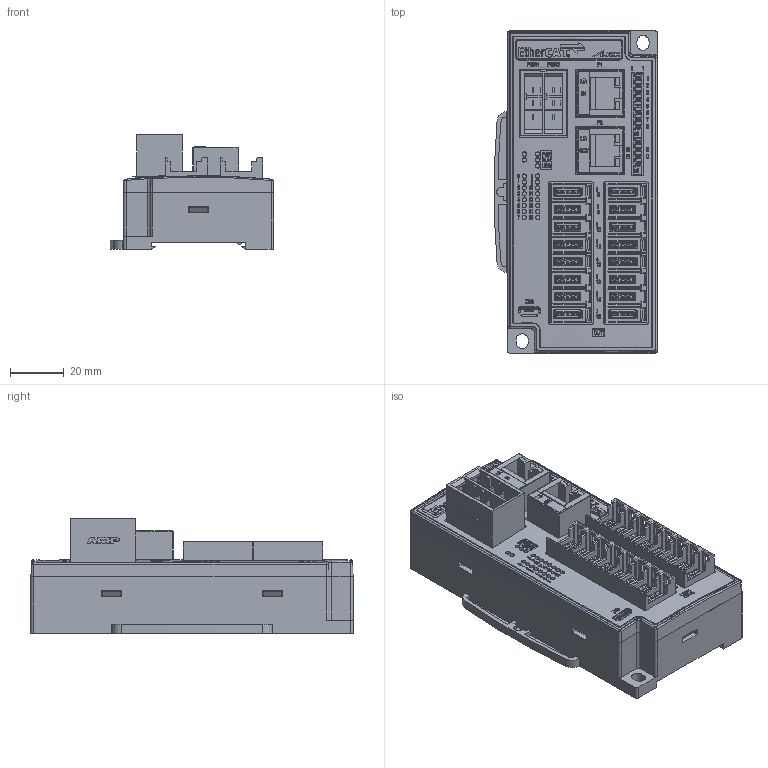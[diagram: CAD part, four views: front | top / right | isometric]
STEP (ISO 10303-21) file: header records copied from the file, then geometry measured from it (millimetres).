
FILE_DESCRIPTION((''),'2;1');
FILE_NAME('ECEP0F','2026-05-11T15:34:37',('gijyu181'),(''),'CREO PARAMETRIC BY PTC INC, 2018050','CREO PARAMETRIC BY PTC INC, 2018050','');
FILE_SCHEMA(('CONFIG_CONTROL_DESIGN','SHAPE_APPEARANCE_LAYERS_GROUPS'));
Products named in the file (1): ECEP0F
Bounding box: 60.87 x 120 x 42.6 mm (x, y, z)
Volume: 156779.5 mm3; surface area: 65207.2 mm2
Topology: 5 solids, 50 shells, 9445 faces, 26856 edges, 17887 vertices
Faces by surface type: plane 7385, extrusion 1241, cylinder 685, bspline 69, cone 41, torus 20, sphere 4
Entity records: 394159 total; most frequent: CARTESIAN_POINT 87628, ORIENTED_EDGE 53712, DIRECTION 42755, EDGE_CURVE 26856, VECTOR 23289, LINE 22048, VERTEX_POINT 17887, EDGE_LOOP 10461
